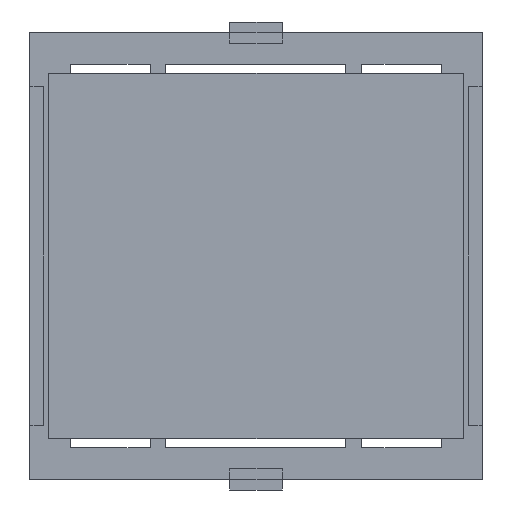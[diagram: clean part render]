
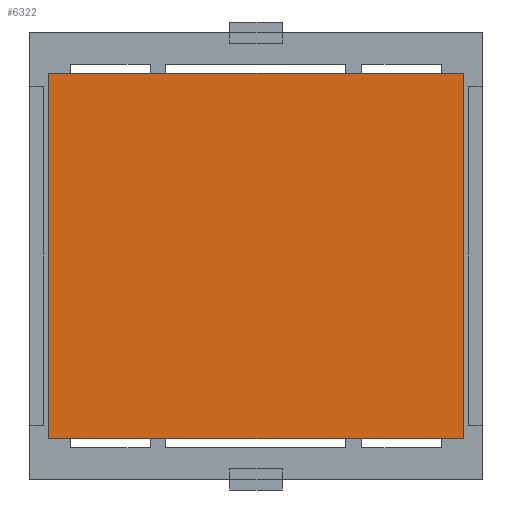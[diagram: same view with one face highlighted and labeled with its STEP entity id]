
A CAD part, front view. The second image highlights one B-rep face of the part: STEP entity #6322.
In plain terms, the highlighted planar face has unit normal (0, -1, 0).
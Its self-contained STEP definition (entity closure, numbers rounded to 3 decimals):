
#370 = ORIENTED_EDGE ( 'NONE', *, *, #4432, .F. ) ;
#483 = VERTEX_POINT ( 'NONE', #2420 ) ;
#645 = CARTESIAN_POINT ( 'NONE',  ( 19.558, -0.127, 17.272 ) ) ;
#918 = DIRECTION ( 'NONE',  ( 1., 0., 0. ) ) ;
#980 = ORIENTED_EDGE ( 'NONE', *, *, #3070, .F. ) ;
#1524 = CARTESIAN_POINT ( 'NONE',  ( -19.558, -0.127, -17.272 ) ) ;
#1884 = PLANE ( 'NONE',  #5312 ) ;
#2018 = VERTEX_POINT ( 'NONE', #645 ) ;
#2137 = CARTESIAN_POINT ( 'NONE',  ( -19.558, -0.127, 17.272 ) ) ;
#2420 = CARTESIAN_POINT ( 'NONE',  ( -19.558, -0.127, 17.272 ) ) ;
#2710 = EDGE_CURVE ( 'NONE', #3005, #6751, #3465, .T. ) ;
#2974 = FACE_OUTER_BOUND ( 'NONE', #5812, .T. ) ;
#2980 = DIRECTION ( 'NONE',  ( 0., 0., -1. ) ) ;
#3005 = VERTEX_POINT ( 'NONE', #5790 ) ;
#3070 = EDGE_CURVE ( 'NONE', #2018, #3005, #5828, .T. ) ;
#3252 = DIRECTION ( 'NONE',  ( 0., 0., 1. ) ) ;
#3348 = VECTOR ( 'NONE', #5107, 1000. ) ;
#3465 = LINE ( 'NONE', #6868, #3348 ) ;
#4174 = CARTESIAN_POINT ( 'NONE',  ( -19.558, -0.127, 17.272 ) ) ;
#4231 = VECTOR ( 'NONE', #3252, 1000. ) ;
#4407 = LINE ( 'NONE', #2137, #6843 ) ;
#4432 = EDGE_CURVE ( 'NONE', #6751, #483, #7229, .T. ) ;
#4573 = ORIENTED_EDGE ( 'NONE', *, *, #4683, .F. ) ;
#4683 = EDGE_CURVE ( 'NONE', #483, #2018, #4407, .T. ) ;
#5107 = DIRECTION ( 'NONE',  ( -1., 0., 0. ) ) ;
#5289 = CARTESIAN_POINT ( 'NONE',  ( -19.558, -0.127, -17.272 ) ) ;
#5312 = AXIS2_PLACEMENT_3D ( 'NONE', #4174, #6444, #5371 ) ;
#5371 = DIRECTION ( 'NONE',  ( 0., 0., 1. ) ) ;
#5790 = CARTESIAN_POINT ( 'NONE',  ( 19.558, -0.127, -17.272 ) ) ;
#5812 = EDGE_LOOP ( 'NONE', ( #370, #7193, #980, #4573 ) ) ;
#5828 = LINE ( 'NONE', #7006, #6793 ) ;
#6322 = ADVANCED_FACE ( 'NONE', ( #2974 ), #1884, .F. ) ;
#6444 = DIRECTION ( 'NONE',  ( 0., 1., 0. ) ) ;
#6751 = VERTEX_POINT ( 'NONE', #5289 ) ;
#6793 = VECTOR ( 'NONE', #2980, 1000. ) ;
#6843 = VECTOR ( 'NONE', #918, 1000. ) ;
#6868 = CARTESIAN_POINT ( 'NONE',  ( -19.558, -0.127, -17.272 ) ) ;
#7006 = CARTESIAN_POINT ( 'NONE',  ( 19.558, -0.127, -17.272 ) ) ;
#7193 = ORIENTED_EDGE ( 'NONE', *, *, #2710, .F. ) ;
#7229 = LINE ( 'NONE', #1524, #4231 ) ;
